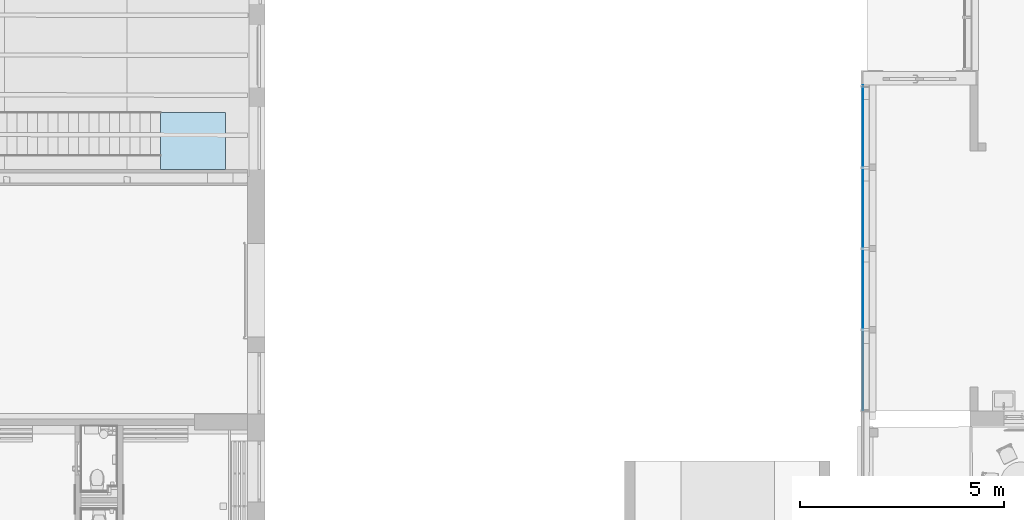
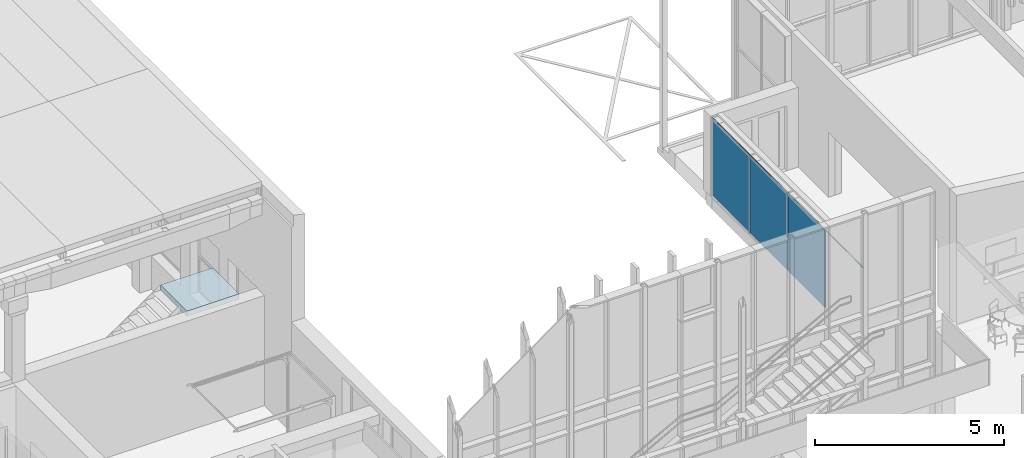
# One storey, part 77 of 301: 4 plates, 1 slab, 1 element without a shape of its own.
"""IFC2X3 building model written with IfcOpenShell, lengths in millimetres."""

from ifc_helpers import new_model, entity, si_unit, converted_unit, derived_unit, money_unit, direction, frame, origin_with_axes, place, context, subcontext, project, spatial, faceted_brep, material, type_object, element, aggregate, save


model = new_model("IFC2X3")

# Units and contexts
model_context = context("Model", 3, precision=0.01, world=origin_with_axes(), true_north=direction((0.0, 1.0)))
body_context = subcontext(model_context, "Body", "Model", "MODEL_VIEW")
ifc_project = project(units=[si_unit("LENGTHUNIT", "METRE", prefix="MILLI"), si_unit("AREAUNIT", "SQUARE_METRE"), si_unit("VOLUMEUNIT", "CUBIC_METRE"), converted_unit("PLANEANGLEUNIT", "DEGREE", entity("IfcPlaneAngleMeasure", 0.0174532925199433), si_unit("PLANEANGLEUNIT", "RADIAN"), dimensions=[0, 0, 0, 0, 0, 0, 0]), money_unit("EUR"), converted_unit("TIMEUNIT", "Year", entity("IfcTimeMeasure", 31557600.0), si_unit("TIMEUNIT", "SECOND"), dimensions=[0, 0, 1, 0, 0, 0, 0]), si_unit("MASSUNIT", "GRAM", prefix="KILO"), si_unit("THERMODYNAMICTEMPERATUREUNIT", "DEGREE_CELSIUS"), si_unit("LUMINOUSINTENSITYUNIT", "LUMEN"), si_unit("ENERGYUNIT", "JOULE", prefix="MEGA"), derived_unit("THERMALCONDUCTANCEUNIT", [(si_unit("POWERUNIT", "WATT"), 1), (si_unit("LENGTHUNIT", "METRE"), -1), (si_unit("THERMODYNAMICTEMPERATUREUNIT", "KELVIN"), -1)]), derived_unit("SPECIFICHEATCAPACITYUNIT", [(si_unit("ENERGYUNIT", "JOULE"), 1), (si_unit("MASSUNIT", "GRAM", prefix="KILO"), -1), (si_unit("THERMODYNAMICTEMPERATUREUNIT", "KELVIN"), -1)]), derived_unit("MASSDENSITYUNIT", [(si_unit("MASSUNIT", "GRAM", prefix="KILO"), 1), (si_unit("VOLUMEUNIT", "CUBIC_METRE"), -1)])], contexts=[model_context])

# Site, building, storey
site_placement = place(None, frame((0.0, 0.0, 8650.0), z_axis=(0.0, 0.0, 1.0), x_axis=(1.0, 0.0, 0.0)))
site = spatial("IfcSite", under=ifc_project, at=site_placement, Name="43301:001:0844", CompositionType="ELEMENT")
building_placement = place(site_placement, origin_with_axes())
building = spatial("IfcBuilding", under=site, at=building_placement, Name="Kuressaare Ametikooli tuulikute mehaanikute õppekorpus", CompositionType="ELEMENT")
storey_placement = place(building_placement, origin_with_axes())
storey = spatial("IfcBuildingStorey", under=building, at=storey_placement, Name="1.korrus", CompositionType="ELEMENT", Elevation=0.0)

# Curtain wall, plates
curtain_wall_type = type_object("IfcCurtainWallType", Name="Curtain Wall Type", PredefinedType="NOTDEFINED")
curtain_wall_placement = place(storey_placement, frame((118344.5490393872, 39517.28066569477, -20.0), z_axis=(0.0, 0.0, 1.0), x_axis=(1.0, 0.0, 0.0)))
curtain_wall = element("IfcCurtainWall", 1, at=curtain_wall_placement, inside=storey, type_object=curtain_wall_type, Name="KF-XX")
ifc_material_1 = material(Name="Klaas")
plate_type_1 = type_object("IfcPlateType", Name="Main Panel 317 x 2485 x 20", PredefinedType="NOTDEFINED")
plate_1_placement = place(curtain_wall_placement, frame((0.0, 0.0, 1265.0000199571), z_axis=(0.0, 0.0, 1.0), x_axis=(0.0, 1.0, 0.0)))
plate_1 = element("IfcPlate", 2, at=plate_1_placement, type_object=plate_type_1, material=ifc_material_1, context=body_context, shape_type="Brep", body=[
    faceted_brep([(-1216.533751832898, -10.00000000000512, 1255.000026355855), (449.9803447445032, -10.00000000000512, 1255.000026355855), (449.9803447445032, 10.00000000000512, 1255.000026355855), (-1216.533751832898, 10.00000000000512, 1255.000026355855), (-1216.533751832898, -10.00000000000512, -1230.000004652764), (449.9803447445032, -10.00000000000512, -1230.000004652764), (766.5534385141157, -10.00000000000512, -1230.000004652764), (766.5534385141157, -10.00000000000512, 1255.000026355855), (766.5534385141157, 10.00000000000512, 1255.000026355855), (766.5534385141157, 10.00000000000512, -1230.000004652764), (449.9803447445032, 10.00000000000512, -1230.000004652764), (-1216.533751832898, 10.00000000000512, -1230.000004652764)], [[[0, 1, 2, 3]], [[0, 4, 5, 6, 7, 1]], [[1, 7, 8, 2]], [[3, 2, 8, 9, 10, 11]], [[4, 0, 3, 11]], [[5, 4, 11, 10]], [[6, 5, 10, 9]], [[7, 6, 9, 8]]]),
])
plate_type_2 = type_object("IfcPlateType", Name="Main Panel 313 x 2485 x 20", PredefinedType="NOTDEFINED")
plate_2_placement = place(curtain_wall_placement, frame((0.0, -1997.695732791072, 1265.0000199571), z_axis=(0.0, 0.0, 1.0), x_axis=(0.0, 1.0, 0.0)))
plate_2 = element("IfcPlate", 3, at=plate_2_placement, type_object=plate_type_2, material=ifc_material_1, context=body_context, shape_type="Brep", body=[
    faceted_brep([(-1208.838051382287, -10.00000000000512, 1255.000026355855), (447.6760515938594, -10.00000000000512, 1255.000026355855), (447.6760515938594, 10.00000000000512, 1255.000026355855), (-1208.838051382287, 10.00000000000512, 1255.000026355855), (-1208.838051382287, -10.00000000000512, -1230.000004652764), (447.6760515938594, -10.00000000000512, -1230.000004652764), (761.1619698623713, -10.00000000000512, -1230.000004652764), (761.1619698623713, -10.00000000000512, 1255.000026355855), (761.1619698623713, 10.00000000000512, 1255.000026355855), (761.1619698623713, 10.00000000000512, -1230.000004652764), (447.6760515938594, 10.00000000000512, -1230.000004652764), (-1208.838051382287, 10.00000000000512, -1230.000004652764)], [[[0, 1, 2, 3]], [[0, 4, 5, 6, 7, 1]], [[1, 7, 8, 2]], [[3, 2, 8, 9, 10, 11]], [[4, 0, 3, 11]], [[5, 4, 11, 10]], [[6, 5, 10, 9]], [[7, 6, 9, 8]]]),
])
plate_type_3 = type_object("IfcPlateType", Name="Main Panel 323 x 2485 x 20", PredefinedType="NOTDEFINED")
plate_3_placement = place(curtain_wall_placement, frame((0.0, -3993.076853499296, 1265.0000199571), z_axis=(0.0, 0.0, 1.0), x_axis=(0.0, 1.0, 0.0)))
plate_3 = element("IfcPlate", 4, at=plate_3_placement, type_object=plate_type_3, material=ifc_material_1, context=body_context, shape_type="Brep", body=[
    faceted_brep([(-1209.600289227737, -10.00000000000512, 1255.000026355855), (443.0571817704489, -10.00000000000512, 1255.000026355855), (443.0571817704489, 10.00000000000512, 1255.000026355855), (-1209.600289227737, 10.00000000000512, 1255.000026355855), (-1209.600289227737, -10.00000000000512, -1230.000004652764), (443.0571817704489, -10.00000000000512, -1230.000004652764), (766.5430936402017, -10.00000000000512, -1230.000004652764), (766.5430936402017, -10.00000000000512, 1255.000026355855), (766.5430936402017, 10.00000000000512, 1255.000026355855), (766.5430936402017, 10.00000000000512, -1230.000004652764), (443.0571817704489, 10.00000000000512, -1230.000004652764), (-1209.600289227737, 10.00000000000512, -1230.000004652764)], [[[0, 1, 2, 3]], [[0, 4, 5, 6, 7, 1]], [[1, 7, 8, 2]], [[3, 2, 8, 9, 10, 11]], [[4, 0, 3, 11]], [[5, 4, 11, 10]], [[6, 5, 10, 9]], [[7, 6, 9, 8]]]),
])
plate_type_4 = type_object("IfcPlateType", Name="Main Panel 352 x 10 x 20", PredefinedType="NOTDEFINED")
plate_4_placement = place(curtain_wall_placement, frame((0.0, -2902.014749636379, 2537.058844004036), z_axis=(0.0, 0.0, 1.0), x_axis=(0.0, 1.0, 0.0)))
plate_4 = element("IfcPlate", 5, at=plate_4_placement, type_object=plate_type_4, material=ifc_material_1, context=body_context, shape_type="Brep", body=[
    faceted_brep([(-4290.607294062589, -10.00000000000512, 12.94114902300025), (-2648.004946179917, -10.00000000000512, 12.94114902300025), (-2648.004946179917, 10.00000000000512, 12.94114902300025), (-4290.607294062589, 10.00000000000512, 12.94114902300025), (-4290.607294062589, -10.00000000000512, 2.941232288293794), (-2648.004946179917, -10.00000000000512, 2.941232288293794), (-2310.662425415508, -10.00000000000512, 2.941232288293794), (-648.0049688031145, -10.00000000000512, 2.941232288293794), (-314.5190340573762, -10.00000000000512, 2.941232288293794), (1351.995128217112, -10.00000000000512, 2.941232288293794), (1675.48102658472, -10.00000000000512, 2.941232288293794), (3351.995105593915, -10.00000000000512, 2.941232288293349), (3678.568163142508, -10.00000000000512, 2.941232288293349), (3703.519080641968, -10.00000000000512, 2.941232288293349), (3703.519080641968, -10.00000000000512, 12.94114902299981), (3351.995105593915, -10.00000000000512, 12.94114902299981), (1351.995128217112, -10.00000000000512, 12.94114902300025), (-648.0049688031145, -10.00000000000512, 12.94114902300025), (-648.0049688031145, 10.00000000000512, 12.94114902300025), (1351.995128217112, 10.00000000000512, 12.94114902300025), (3351.995105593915, 10.00000000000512, 12.94114902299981), (3703.519080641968, 10.00000000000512, 12.94114902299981), (3703.519080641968, 10.00000000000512, 2.941232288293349), (3678.568163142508, 10.00000000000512, 2.941232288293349), (3351.995105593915, 10.00000000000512, 2.941232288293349), (1675.48102658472, 10.00000000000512, 2.941232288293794), (1351.995128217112, 10.00000000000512, 2.941232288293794), (-314.5190340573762, 10.00000000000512, 2.941232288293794), (-648.0049688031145, 10.00000000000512, 2.941232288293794), (-2310.662425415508, 10.00000000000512, 2.941232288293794), (-2648.004946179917, 10.00000000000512, 2.941232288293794), (-4290.607294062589, 10.00000000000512, 2.941232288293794)], [[[0, 1, 2, 3]], [[0, 4, 5, 6, 7, 8, 9, 10, 11, 12, 13, 14, 15, 16, 17, 1]], [[1, 17, 18, 2]], [[3, 2, 18, 19, 20, 21, 22, 23, 24, 25, 26, 27, 28, 29, 30, 31]], [[4, 0, 3, 31]], [[5, 4, 31, 30]], [[6, 5, 30, 29]], [[7, 6, 29, 28]], [[8, 7, 28, 27]], [[9, 8, 27, 26]], [[10, 9, 26, 25]], [[11, 10, 25, 24]], [[12, 11, 24, 23]], [[13, 12, 23, 22]], [[14, 13, 22, 21]], [[15, 14, 21, 20]], [[16, 15, 20, 19]], [[17, 16, 19, 18]]]),
])
aggregate(curtain_wall, [plate_1, plate_2, plate_3, plate_4])

# Slab
ifc_material_2 = material(Name="GENEERILINE - KONSTRUKTRIOON")
slab_type = type_object("IfcSlabType", Name="GENEERILINE - KONSTRUKTRIOON 170", PredefinedType="NOTDEFINED")
slab_placement = place(storey_placement, frame((101088.8794049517, 39643.70691150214, 3560.0), z_axis=(0.0, 0.0, 1.0), x_axis=(1.0, 0.0, 0.0)))
element("IfcSlab", 6, at=slab_placement, inside=storey, type_object=slab_type, material=ifc_material_2, PredefinedType="NOTDEFINED", context=body_context, shape_type="Brep", body=[
    faceted_brep([(0.0, 0.0, 0.0), (0.0, 0.0, -169.9999999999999), (-0.8962352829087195, -1397.935246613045, -169.9999999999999), (-0.8962352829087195, -1397.935246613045, 0.0), (1593.634785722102, 2.039319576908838, 0.0), (1593.634785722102, 2.039319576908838, -169.9999999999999), (1591.030064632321, -1397.935246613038, -169.9999999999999), (1591.030064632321, -1397.935246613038, 0.0)], [[[0, 1, 2, 3]], [[4, 5, 1, 0]], [[2, 1, 5, 6]], [[3, 2, 6, 7]], [[4, 0, 3, 7]], [[7, 6, 5, 4]]]),
])

save(model, "model.ifc")
